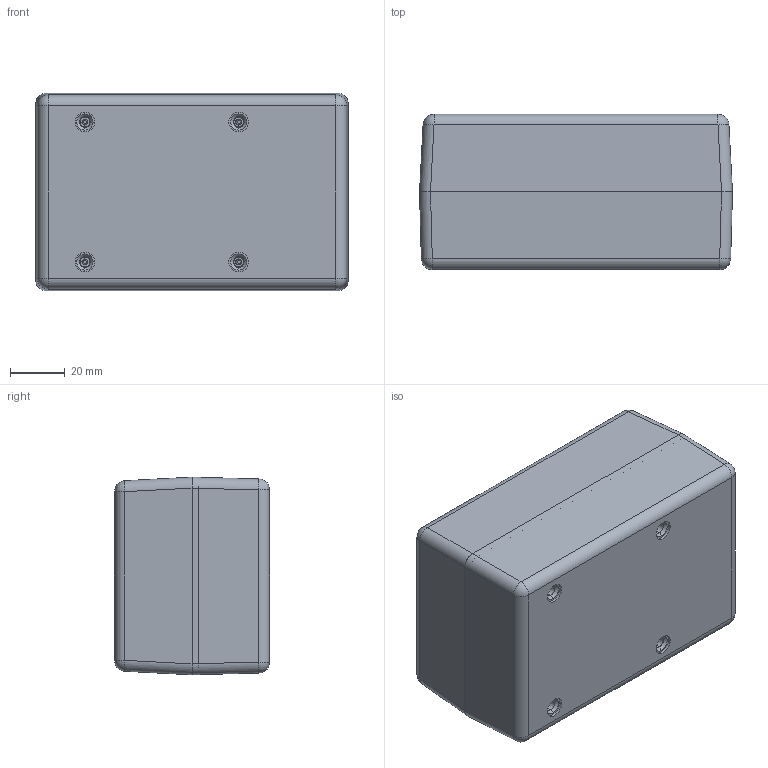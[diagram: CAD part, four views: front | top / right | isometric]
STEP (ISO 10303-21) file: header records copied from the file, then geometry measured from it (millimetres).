
FILE_DESCRIPTION (( 'STEP AP214' ), '1' );
FILE_NAME ('UCCS-221.STEP', '2020-05-17T23:50:14', ( 'Rudy' ), ( '' ), 'SwSTEP 2.0', 'SolidWorks 2014', '' );
FILE_SCHEMA (( 'AUTOMOTIVE_DESIGN' ));
Length unit declared in the file: inch
Products named in the file (3): UCCS-DEEP Top; UCCS Deep Bottom; UCCS-221
Assembly tree (2 placements, depth 2):
  UCCS-221
    UCCS Deep Bottom
    UCCS-DEEP Top
Bounding box: 114 x 56.49 x 72 mm (x, y, z)
Volume: 113437.1 mm3; surface area: 81449.1 mm2
Topology: 2 solids, 2 shells, 557 faces, 1381 edges, 872 vertices
Faces by surface type: plane 276, cylinder 175, cone 48, torus 26, bspline 24, sphere 8
Entity records: 17317 total; most frequent: CARTESIAN_POINT 4135, ORIENTED_EDGE 2746, DIRECTION 2685, EDGE_CURVE 1373, AXIS2_PLACEMENT_3D 928, VERTEX_POINT 872, LINE 829, VECTOR 829
